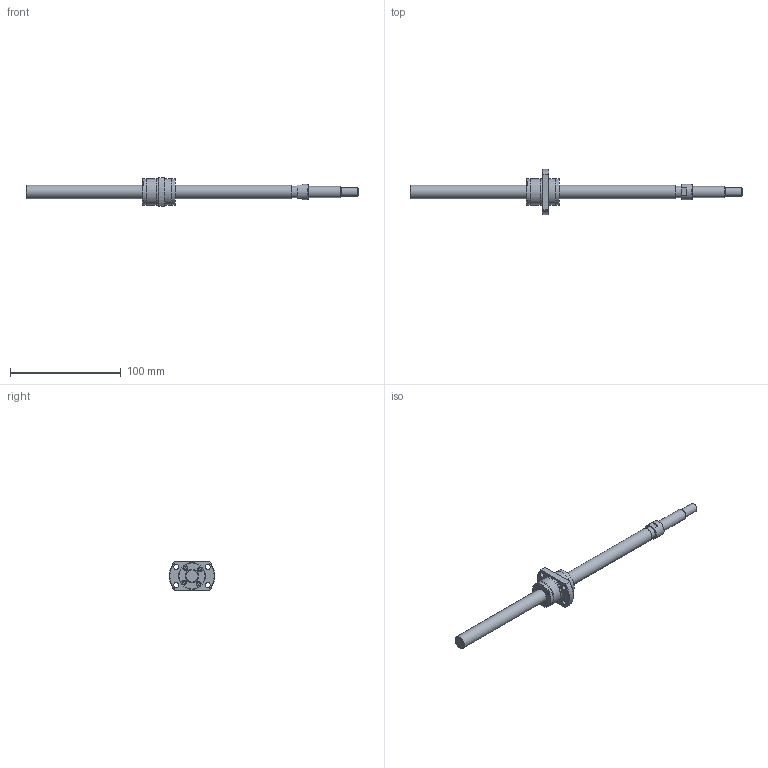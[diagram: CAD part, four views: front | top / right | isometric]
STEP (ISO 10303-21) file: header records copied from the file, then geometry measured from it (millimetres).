
FILE_DESCRIPTION( ( 'STEP AP214' ), '1' );
FILE_NAME( 'p:/temp/worker_11/3844_3048/app_90_12015063014512910119252260eae72_00_00_00_000/STEP/SG1210-240R300C5A1X_105__2_14.stp', ' ', ( ' ' ), ( ' ' ), 'PSStep 15.0.47', 'PARTsolutions', ' ' );
FILE_SCHEMA( ( 'AUTOMOTIVE_DESIGN { 1 0 10303 214 1 1 1 1 }' ) );
Length unit declared in the file: millimetre
Products named in the file (3): SG1210-240R300C5A1X(105); _SG1210-240R300C5A_shaft; _SG1210 C5_nut
Assembly tree (2 placements, depth 2):
  SG1210-240R300C5A1X(105)
    _SG1210-240R300C5A_shaft
    _SG1210 C5_nut
Bounding box: 300 x 41 x 26 mm (x, y, z)
Volume: 44952.4 mm3; surface area: 16997 mm2
Topology: 2 solids, 2 shells, 99 faces, 227 edges, 149 vertices
Faces by surface type: plane 63, cylinder 25, cone 10, torus 1
Full cylindrical faces by diameter (mm): 3.8 x4, 4.5 x4, 8 x1, 10 x1, 10.46 x1, 12 x2, 14 x1, 23.5 x3, 24 x2
Entity records: 3522 total; most frequent: CARTESIAN_POINT 472, DIRECTION 466, ORIENTED_EDGE 398, EDGE_CURVE 199, AXIS2_PLACEMENT_3D 173, EDGE_LOOP 152, VERTEX_POINT 147, LINE 120
